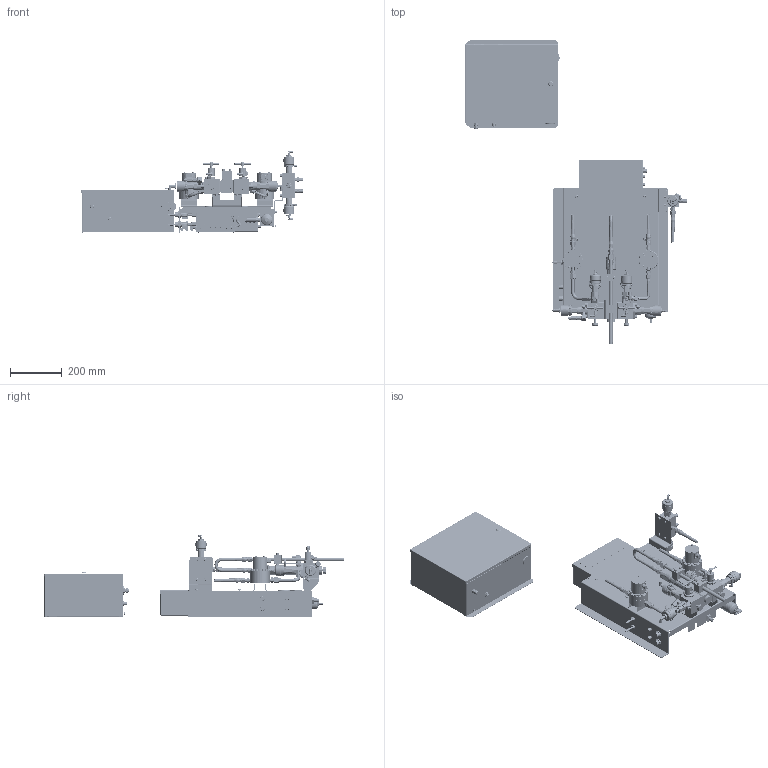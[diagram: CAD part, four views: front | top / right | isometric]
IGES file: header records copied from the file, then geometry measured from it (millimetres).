
Start section:  PTC IGES file: ae100n-en-d.igs
Global section: file name: ae100n-en-d.igs; native system: Creo Parametric by PTC Inc.; preprocessor: 2019030; author: qusrh3; organization: Unknown; date: 20200101.120112; units: inch
Bounding box: 856.89 x 1176.94 x 319.8 mm (x, y, z)
Surface area: 2394589.5 mm2 (no closed solid volume)
Topology: 0 solids, 0 shells, 4433 faces, 20141 edges, 20118 vertices
Faces by surface type: revolution 2442, bspline 1991
